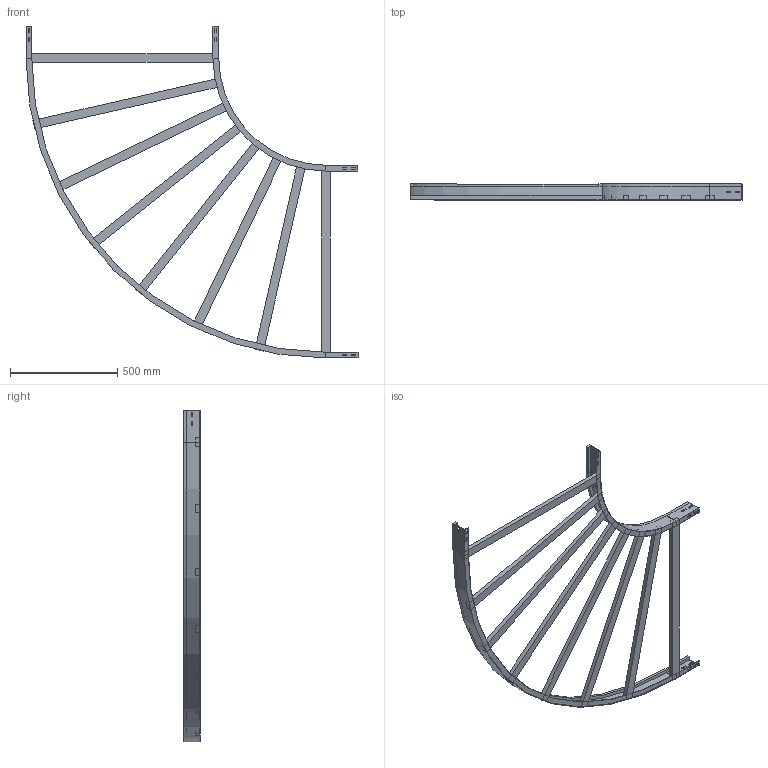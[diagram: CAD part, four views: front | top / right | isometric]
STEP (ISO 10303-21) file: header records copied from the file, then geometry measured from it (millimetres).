
FILE_DESCRIPTION (( 'STEP AP214' ), '1' );
FILE_NAME ('10B5C900.step', '2025-02-21T15:26:07', ( '' ), ( '' ), 'SwSTEP 2.0', 'SolidWorks 2023', '' );
FILE_SCHEMA (( 'AUTOMOTIVE_DESIGN' ));
Length unit declared in the file: millimetre
Products named in the file (4): TRAVERSINO_900; 10B5C900; A2_LONGH.ESTERNO 90°_H75_R500+900; A2_LONGH.INTERNO 90°_H75_R500
Assembly tree (10 placements, depth 2):
  10B5C900
    A2_LONGH.INTERNO 90°_H75_R500
    A2_LONGH.ESTERNO 90°_H75_R500+900
    TRAVERSINO_900  x8
Bounding box: 1550 x 75 x 1550 mm (x, y, z)
Volume: 7206281.1 mm3; surface area: 1724729.1 mm2
Topology: 10 solids, 10 shells, 164 faces, 400 edges, 256 vertices
Faces by surface type: plane 156, cylinder 8
Entity records: 3861 total; most frequent: CARTESIAN_POINT 651, ORIENTED_EDGE 632, DIRECTION 602, EDGE_CURVE 316, LINE 300, VECTOR 300, VERTEX_POINT 200, EDGE_LOOP 154
